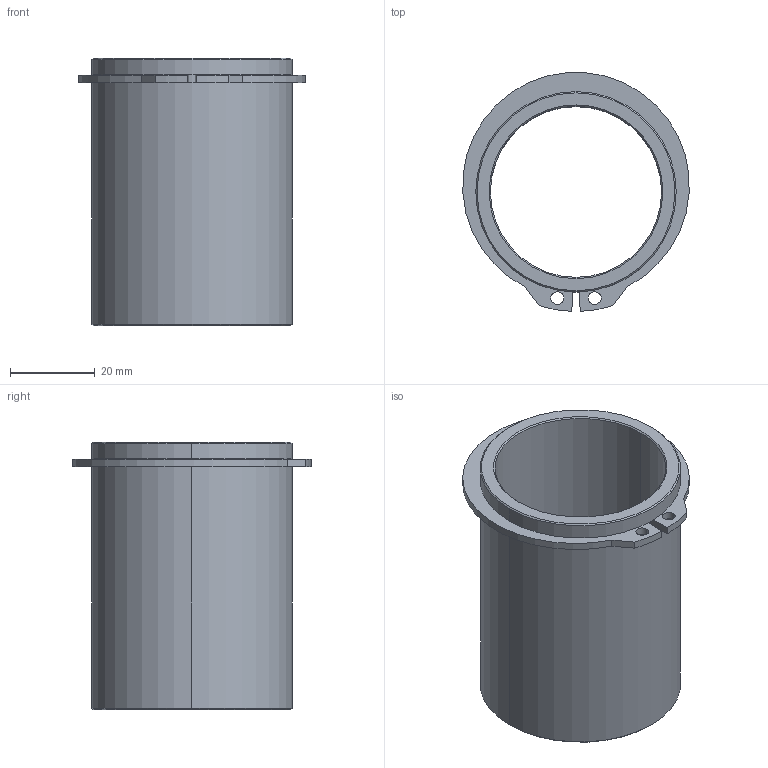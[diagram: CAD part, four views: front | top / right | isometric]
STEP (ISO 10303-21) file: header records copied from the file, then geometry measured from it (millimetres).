
FILE_DESCRIPTION((''),'2;1');
FILE_NAME('C13_040_063.stp','2008-12-17T16:05:36',(''),(''),'Mechanical Desktop 2009','Mechanical Desktop 2009',', , ');
FILE_SCHEMA(('CONFIG_CONTROL_DESIGN'));
Length unit declared in the file: millimetre
Products named in the file (2): Product; blmdl1
Assembly tree (1 placements, depth 2):
  Product
    blmdl1
Bounding box: 53.33 x 56.26 x 63 mm (x, y, z)
Volume: 30793.4 mm3; surface area: 20377.7 mm2
Topology: 2 solids, 2 shells, 34 faces, 76 edges, 48 vertices
Faces by surface type: cylinder 16, plane 10, cone 8
Entity records: 1075 total; most frequent: DIRECTION 188, CARTESIAN_POINT 160, ORIENTED_EDGE 152, AXIS2_PLACEMENT_3D 76, EDGE_CURVE 76, VERTEX_POINT 48, EDGE_LOOP 42, CIRCLE 40
